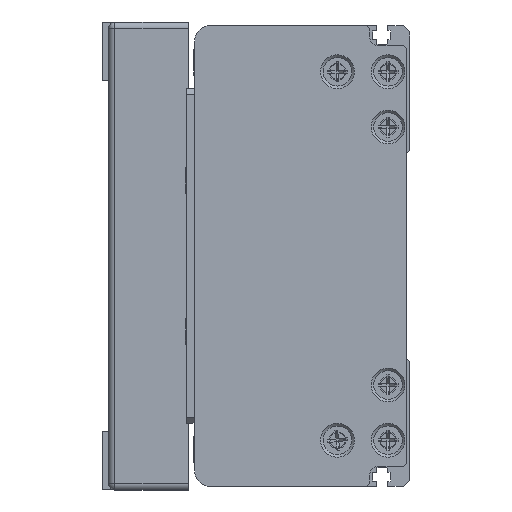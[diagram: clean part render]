
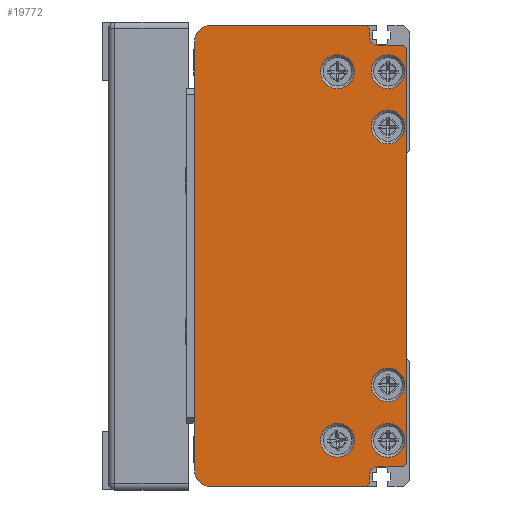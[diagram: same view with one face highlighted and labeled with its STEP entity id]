
A CAD part, left-side view. The second image highlights one B-rep face of the part: STEP entity #19772.
In plain terms, the highlighted planar face has unit normal (-1, 0, 0) as drawn and (0, 0, -1) by its records, which use the part's own axes.
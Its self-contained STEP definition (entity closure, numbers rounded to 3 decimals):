
#934=LINE('',#28562,#2599);
#935=LINE('',#28566,#2600);
#936=LINE('',#28568,#2601);
#937=LINE('',#28570,#2602);
#938=LINE('',#28574,#2603);
#939=LINE('',#28576,#2604);
#940=LINE('',#28578,#2605);
#941=LINE('',#28580,#2606);
#942=LINE('',#28582,#2607);
#943=LINE('',#28586,#2608);
#944=LINE('',#28588,#2609);
#945=LINE('',#28590,#2610);
#2599=VECTOR('',#23187,140.);
#2600=VECTOR('',#23190,51.);
#2601=VECTOR('',#23191,1.414);
#2602=VECTOR('',#23192,2.5);
#2603=VECTOR('',#23195,8.);
#2604=VECTOR('',#23196,1.414);
#2605=VECTOR('',#23197,135.);
#2606=VECTOR('',#23198,1.414);
#2607=VECTOR('',#23199,8.);
#2608=VECTOR('',#23202,2.5);
#2609=VECTOR('',#23203,1.414);
#2610=VECTOR('',#23204,51.);
#4217=PLANE('',#21122);
#4842=FACE_BOUND('',#6656,.T.);
#4843=FACE_BOUND('',#6657,.T.);
#4844=FACE_BOUND('',#6658,.T.);
#4845=FACE_BOUND('',#6659,.T.);
#4846=FACE_BOUND('',#6660,.T.);
#4847=FACE_BOUND('',#6661,.T.);
#5385=FACE_OUTER_BOUND('',#6655,.T.);
#6655=EDGE_LOOP('',(#13875,#13876,#13877,#13878,#13879,#13880,#13881,#13882,
#13883,#13884,#13885,#13886,#13887,#13888,#13889,#13890));
#6656=EDGE_LOOP('',(#13891));
#6657=EDGE_LOOP('',(#13892));
#6658=EDGE_LOOP('',(#13893));
#6659=EDGE_LOOP('',(#13894));
#6660=EDGE_LOOP('',(#13895));
#6661=EDGE_LOOP('',(#13896));
#8155=CIRCLE('',#21123,5.);
#8156=CIRCLE('',#21124,3.);
#8157=CIRCLE('',#21125,3.);
#8158=CIRCLE('',#21126,5.);
#8159=CIRCLE('',#21127,5.5);
#8160=CIRCLE('',#21128,5.5);
#8161=CIRCLE('',#21129,5.5);
#8162=CIRCLE('',#21130,5.5);
#8163=CIRCLE('',#21131,5.5);
#8164=CIRCLE('',#21132,5.5);
#8839=VERTEX_POINT('',#28560);
#8840=VERTEX_POINT('',#28561);
#8841=VERTEX_POINT('',#28563);
#8842=VERTEX_POINT('',#28565);
#8843=VERTEX_POINT('',#28567);
#8844=VERTEX_POINT('',#28569);
#8845=VERTEX_POINT('',#28571);
#8846=VERTEX_POINT('',#28573);
#8847=VERTEX_POINT('',#28575);
#8848=VERTEX_POINT('',#28577);
#8849=VERTEX_POINT('',#28579);
#8850=VERTEX_POINT('',#28581);
#8851=VERTEX_POINT('',#28583);
#8852=VERTEX_POINT('',#28585);
#8853=VERTEX_POINT('',#28587);
#8854=VERTEX_POINT('',#28589);
#8855=VERTEX_POINT('',#28592);
#8856=VERTEX_POINT('',#28594);
#8857=VERTEX_POINT('',#28596);
#8858=VERTEX_POINT('',#28598);
#8859=VERTEX_POINT('',#28600);
#8860=VERTEX_POINT('',#28602);
#10867=EDGE_CURVE('',#8839,#8840,#934,.T.);
#10868=EDGE_CURVE('',#8840,#8841,#8155,.T.);
#10869=EDGE_CURVE('',#8841,#8842,#935,.T.);
#10870=EDGE_CURVE('',#8842,#8843,#936,.T.);
#10871=EDGE_CURVE('',#8843,#8844,#937,.T.);
#10872=EDGE_CURVE('',#8844,#8845,#8156,.T.);
#10873=EDGE_CURVE('',#8845,#8846,#938,.T.);
#10874=EDGE_CURVE('',#8846,#8847,#939,.T.);
#10875=EDGE_CURVE('',#8847,#8848,#940,.T.);
#10876=EDGE_CURVE('',#8848,#8849,#941,.T.);
#10877=EDGE_CURVE('',#8849,#8850,#942,.T.);
#10878=EDGE_CURVE('',#8850,#8851,#8157,.T.);
#10879=EDGE_CURVE('',#8851,#8852,#943,.T.);
#10880=EDGE_CURVE('',#8852,#8853,#944,.T.);
#10881=EDGE_CURVE('',#8853,#8854,#945,.T.);
#10882=EDGE_CURVE('',#8854,#8839,#8158,.T.);
#10883=EDGE_CURVE('',#8855,#8855,#8159,.T.);
#10884=EDGE_CURVE('',#8856,#8856,#8160,.T.);
#10885=EDGE_CURVE('',#8857,#8857,#8161,.T.);
#10886=EDGE_CURVE('',#8858,#8858,#8162,.T.);
#10887=EDGE_CURVE('',#8859,#8859,#8163,.T.);
#10888=EDGE_CURVE('',#8860,#8860,#8164,.T.);
#13875=ORIENTED_EDGE('',*,*,#10867,.T.);
#13876=ORIENTED_EDGE('',*,*,#10868,.T.);
#13877=ORIENTED_EDGE('',*,*,#10869,.T.);
#13878=ORIENTED_EDGE('',*,*,#10870,.T.);
#13879=ORIENTED_EDGE('',*,*,#10871,.T.);
#13880=ORIENTED_EDGE('',*,*,#10872,.T.);
#13881=ORIENTED_EDGE('',*,*,#10873,.T.);
#13882=ORIENTED_EDGE('',*,*,#10874,.T.);
#13883=ORIENTED_EDGE('',*,*,#10875,.T.);
#13884=ORIENTED_EDGE('',*,*,#10876,.T.);
#13885=ORIENTED_EDGE('',*,*,#10877,.T.);
#13886=ORIENTED_EDGE('',*,*,#10878,.T.);
#13887=ORIENTED_EDGE('',*,*,#10879,.T.);
#13888=ORIENTED_EDGE('',*,*,#10880,.T.);
#13889=ORIENTED_EDGE('',*,*,#10881,.T.);
#13890=ORIENTED_EDGE('',*,*,#10882,.T.);
#13891=ORIENTED_EDGE('',*,*,#10883,.T.);
#13892=ORIENTED_EDGE('',*,*,#10884,.T.);
#13893=ORIENTED_EDGE('',*,*,#10885,.T.);
#13894=ORIENTED_EDGE('',*,*,#10886,.T.);
#13895=ORIENTED_EDGE('',*,*,#10887,.T.);
#13896=ORIENTED_EDGE('',*,*,#10888,.T.);
#19772=ADVANCED_FACE('',(#5385,#4842,#4843,#4844,#4845,#4846,#4847),#4217,
 .F.);
#21122=AXIS2_PLACEMENT_3D('',#28559,#23185,#23186);
#21123=AXIS2_PLACEMENT_3D('',#28564,#23188,#23189);
#21124=AXIS2_PLACEMENT_3D('',#28572,#23193,#23194);
#21125=AXIS2_PLACEMENT_3D('',#28584,#23200,#23201);
#21126=AXIS2_PLACEMENT_3D('',#28591,#23205,#23206);
#21127=AXIS2_PLACEMENT_3D('',#28593,#23207,#23208);
#21128=AXIS2_PLACEMENT_3D('',#28595,#23209,#23210);
#21129=AXIS2_PLACEMENT_3D('',#28597,#23211,#23212);
#21130=AXIS2_PLACEMENT_3D('',#28599,#23213,#23214);
#21131=AXIS2_PLACEMENT_3D('',#28601,#23215,#23216);
#21132=AXIS2_PLACEMENT_3D('',#28603,#23217,#23218);
#23185=DIRECTION('center_axis',(0.,0.,
1.));
#23186=DIRECTION('ref_axis',(1.,0.,0.));
#23187=DIRECTION('',(1.,0.,0.));
#23188=DIRECTION('center_axis',(0.,0.,
-1.));
#23189=DIRECTION('ref_axis',(-1.,0.,0.));
#23190=DIRECTION('',(0.,-1.,0.));
#23191=DIRECTION('',(-0.707,-0.707,0.));
#23192=DIRECTION('',(-1.,0.,0.));
#23193=DIRECTION('center_axis',(0.,0.,
1.));
#23194=DIRECTION('ref_axis',(0.,1.,0.));
#23195=DIRECTION('',(0.,-1.,0.));
#23196=DIRECTION('',(-0.707,-0.707,0.));
#23197=DIRECTION('',(-1.,0.,0.));
#23198=DIRECTION('',(-0.707,0.707,0.));
#23199=DIRECTION('',(0.,1.,0.));
#23200=DIRECTION('center_axis',(0.,0.,
1.));
#23201=DIRECTION('ref_axis',(1.,0.,0.));
#23202=DIRECTION('',(-1.,0.,0.));
#23203=DIRECTION('',(-0.707,0.707,0.));
#23204=DIRECTION('',(0.,1.,0.));
#23205=DIRECTION('center_axis',(0.,0.,
-1.));
#23206=DIRECTION('ref_axis',(0.,-1.,0.));
#23207=DIRECTION('center_axis',(0.,0.,
1.));
#23208=DIRECTION('ref_axis',(-1.,0.,0.));
#23209=DIRECTION('center_axis',(0.,0.,
1.));
#23210=DIRECTION('ref_axis',(-1.,0.,0.));
#23211=DIRECTION('center_axis',(0.,0.,
1.));
#23212=DIRECTION('ref_axis',(-1.,0.,0.));
#23213=DIRECTION('center_axis',(0.,0.,
1.));
#23214=DIRECTION('ref_axis',(-1.,0.,0.));
#23215=DIRECTION('center_axis',(0.,0.,
1.));
#23216=DIRECTION('ref_axis',(-1.,0.,0.));
#23217=DIRECTION('center_axis',(0.,0.,
1.));
#23218=DIRECTION('ref_axis',(-1.,0.,0.));
#28559=CARTESIAN_POINT('Origin',(0.25,38.047,-769.));
#28560=CARTESIAN_POINT('',(-69.75,72.25,-769.));
#28561=CARTESIAN_POINT('',(70.25,72.25,-769.));
#28562=CARTESIAN_POINT('',(-69.75,72.25,-769.));
#28563=CARTESIAN_POINT('',(75.25,67.25,-769.));
#28564=CARTESIAN_POINT('Origin',(70.25,67.25,-769.));
#28565=CARTESIAN_POINT('',(75.25,16.25,-769.));
#28566=CARTESIAN_POINT('',(75.25,67.25,-769.));
#28567=CARTESIAN_POINT('',(74.25,15.25,-769.));
#28568=CARTESIAN_POINT('',(75.25,16.25,-769.));
#28569=CARTESIAN_POINT('',(71.75,15.25,-769.));
#28570=CARTESIAN_POINT('',(74.25,15.25,-769.));
#28571=CARTESIAN_POINT('',(68.75,12.25,-769.));
#28572=CARTESIAN_POINT('Origin',(71.75,12.25,-769.));
#28573=CARTESIAN_POINT('',(68.75,4.25,-769.));
#28574=CARTESIAN_POINT('',(68.75,12.25,-769.));
#28575=CARTESIAN_POINT('',(67.75,3.25,-769.));
#28576=CARTESIAN_POINT('',(68.75,4.25,-769.));
#28577=CARTESIAN_POINT('',(-67.25,3.25,-769.));
#28578=CARTESIAN_POINT('',(67.75,3.25,-769.));
#28579=CARTESIAN_POINT('',(-68.25,4.25,-769.));
#28580=CARTESIAN_POINT('',(-67.25,3.25,-769.));
#28581=CARTESIAN_POINT('',(-68.25,12.25,-769.));
#28582=CARTESIAN_POINT('',(-68.25,4.25,-769.));
#28583=CARTESIAN_POINT('',(-71.25,15.25,-769.));
#28584=CARTESIAN_POINT('Origin',(-71.25,12.25,-769.));
#28585=CARTESIAN_POINT('',(-73.75,15.25,-769.));
#28586=CARTESIAN_POINT('',(-71.25,15.25,-769.));
#28587=CARTESIAN_POINT('',(-74.75,16.25,-769.));
#28588=CARTESIAN_POINT('',(-73.75,15.25,-769.));
#28589=CARTESIAN_POINT('',(-74.75,67.25,-769.));
#28590=CARTESIAN_POINT('',(-74.75,16.25,-769.));
#28591=CARTESIAN_POINT('Origin',(-69.75,67.25,-769.));
#28592=CARTESIAN_POINT('',(-47.25,9.25,-769.));
#28593=CARTESIAN_POINT('Origin',(-41.75,9.25,-769.));
#28594=CARTESIAN_POINT('',(36.75,9.25,-769.));
#28595=CARTESIAN_POINT('Origin',(42.25,9.25,-769.));
#28596=CARTESIAN_POINT('',(-65.25,25.75,-769.));
#28597=CARTESIAN_POINT('Origin',(-59.75,25.75,-769.));
#28598=CARTESIAN_POINT('',(54.75,25.75,-769.));
#28599=CARTESIAN_POINT('Origin',(60.25,25.75,-769.));
#28600=CARTESIAN_POINT('',(-65.25,9.25,-769.));
#28601=CARTESIAN_POINT('Origin',(-59.75,9.25,-769.));
#28602=CARTESIAN_POINT('',(54.75,9.25,-769.));
#28603=CARTESIAN_POINT('Origin',(60.25,9.25,-769.));
